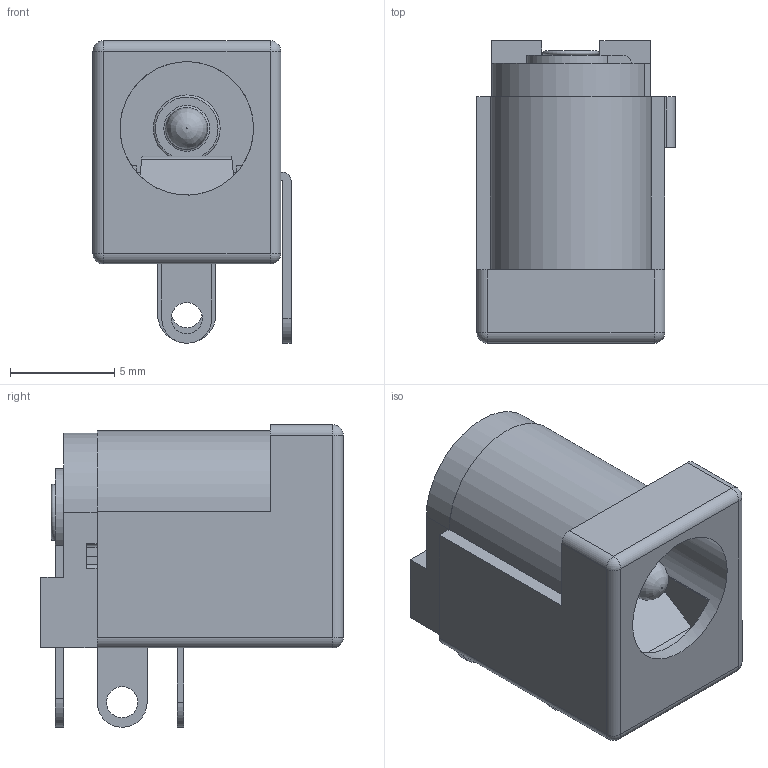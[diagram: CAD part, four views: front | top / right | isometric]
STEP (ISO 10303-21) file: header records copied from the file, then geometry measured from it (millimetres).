
FILE_DESCRIPTION(('FreeCAD Model'),'2;1');
FILE_NAME('Open CASCADE Shape Model','2024-07-30T00:34:36',('Author'),( ''),'Open CASCADE STEP processor 7.6','FreeCAD','Unknown');
FILE_SCHEMA(('AUTOMOTIVE_DESIGN { 1 0 10303 214 1 1 1 1 }'));
Length unit declared in the file: millimetre
Products named in the file (13): 6941xx301002; 694106301002_PinContact; 6941xx301002_Back; 6941xx301002_PinContact2; 6941xx301002_PinLame; 6941xx301002_PinBis; 6941xx301003
Assembly tree (6 placements, depth 2):
  6941xx301002
  694106301002_PinContact
  6941xx301002_Back
  6941xx301002_PinContact2
  6941xx301002_PinLame
Bounding box: 9.5 x 14.5 x 14.5 mm (x, y, z)
Volume: 1466.3 mm3; surface area: 3475.3 mm2
Topology: 12 solids, 12 shells, 378 faces, 1004 edges, 654 vertices
Faces by surface type: plane 240, cylinder 98, torus 22, revolution 10, sphere 8
Full cylindrical faces by diameter (mm): 1.5 x6, 1.8 x2, 2 x10, 3.2 x4, 6.4 x2
Entity records: 12077 total; most frequent: CARTESIAN_POINT 2225, ORIENTED_EDGE 1992, DIRECTION 1982, EDGE_CURVE 996, LINE 690, VECTOR 690, VERTEX_POINT 654, AXIS2_PLACEMENT_3D 641
